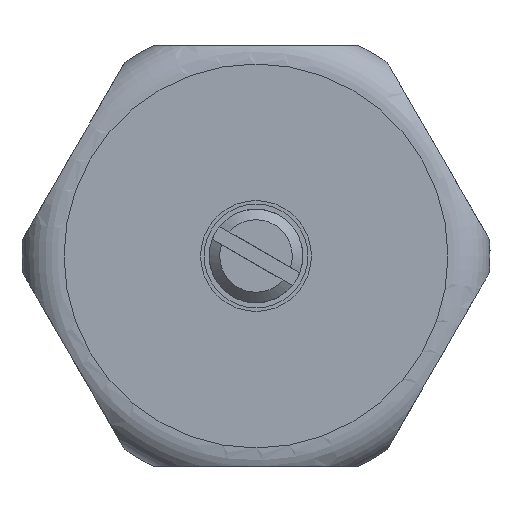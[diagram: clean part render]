
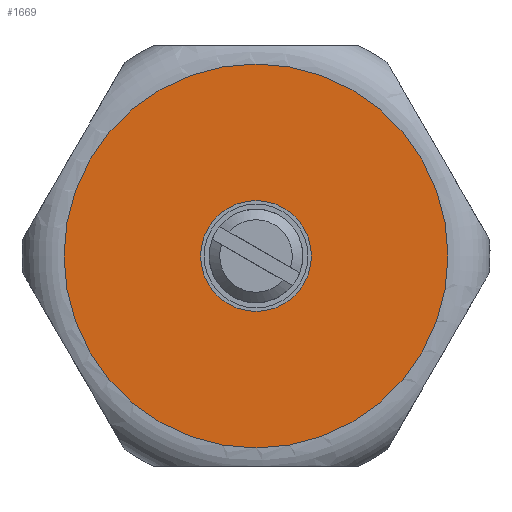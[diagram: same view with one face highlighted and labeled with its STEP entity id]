
A CAD part, left-side view. The second image highlights one B-rep face of the part: STEP entity #1669.
In plain terms, the highlighted planar face has unit normal (-1, 0, 0).
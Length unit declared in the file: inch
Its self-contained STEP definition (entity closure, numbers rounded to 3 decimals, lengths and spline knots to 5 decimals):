
#38=FACE_BOUND('',#373,.T.);
#130=CIRCLE('',#1799,0.14764);
#131=CIRCLE('',#1800,0.14764);
#157=CIRCLE('',#1844,0.51181);
#158=CIRCLE('',#1845,0.51181);
#277=FACE_OUTER_BOUND('',#372,.T.);
#372=EDGE_LOOP('',(#1239,#1240));
#373=EDGE_LOOP('',(#1241,#1242));
#642=VERTEX_POINT('',#2652);
#643=VERTEX_POINT('',#2653);
#682=VERTEX_POINT('',#2913);
#683=VERTEX_POINT('',#2914);
#833=EDGE_CURVE('',#642,#643,#130,.T.);
#834=EDGE_CURVE('',#643,#642,#131,.T.);
#890=EDGE_CURVE('',#682,#683,#157,.T.);
#891=EDGE_CURVE('',#683,#682,#158,.T.);
#1239=ORIENTED_EDGE('',*,*,#890,.F.);
#1240=ORIENTED_EDGE('',*,*,#891,.F.);
#1241=ORIENTED_EDGE('',*,*,#833,.T.);
#1242=ORIENTED_EDGE('',*,*,#834,.T.);
#1512=PLANE('',#1843);
#1669=ADVANCED_FACE('',(#277,#38),#1512,.T.);
#1799=AXIS2_PLACEMENT_3D('',#2654,#2111,#2112);
#1800=AXIS2_PLACEMENT_3D('',#2655,#2113,#2114);
#1843=AXIS2_PLACEMENT_3D('',#2912,#2215,#2216);
#1844=AXIS2_PLACEMENT_3D('',#2915,#2217,#2218);
#1845=AXIS2_PLACEMENT_3D('',#2916,#2219,#2220);
#2111=DIRECTION('center_axis',(1.,0.,0.));
#2112=DIRECTION('ref_axis',(0.,-0.866,0.5));
#2113=DIRECTION('center_axis',(1.,0.,0.));
#2114=DIRECTION('ref_axis',(0.,-0.866,0.5));
#2215=DIRECTION('center_axis',(-1.,0.,0.));
#2216=DIRECTION('ref_axis',(0.,-0.866,0.5));
#2217=DIRECTION('center_axis',(1.,0.,0.));
#2218=DIRECTION('ref_axis',(0.,0.866,-0.5));
#2219=DIRECTION('center_axis',(1.,0.,0.));
#2220=DIRECTION('ref_axis',(0.,0.866,-0.5));
#2652=CARTESIAN_POINT('',(-2.66747,-0.02656,-0.27052));
#2653=CARTESIAN_POINT('',(-2.66747,0.22916,-0.41816));
#2654=CARTESIAN_POINT('Origin',(-2.66747,0.1013,-0.34434));
#2655=CARTESIAN_POINT('Origin',(-2.66747,0.1013,-0.34434));
#2912=CARTESIAN_POINT('Origin',(-2.66747,0.54454,-0.60025));
#2913=CARTESIAN_POINT('',(-2.66747,0.54454,-0.60025));
#2914=CARTESIAN_POINT('',(-2.66747,-0.34194,-0.08844));
#2915=CARTESIAN_POINT('Origin',(-2.66747,0.1013,-0.34434));
#2916=CARTESIAN_POINT('Origin',(-2.66747,0.1013,-0.34434));
